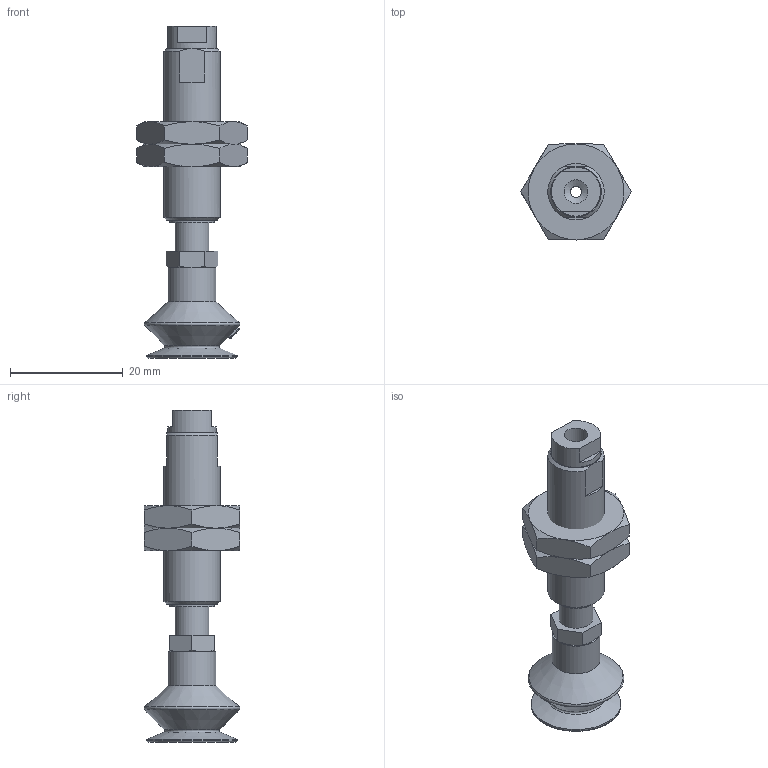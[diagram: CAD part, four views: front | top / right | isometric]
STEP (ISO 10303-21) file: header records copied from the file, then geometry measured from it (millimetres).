
FILE_DESCRIPTION(('STEP AP203'),'1');
FILE_NAME('-LB.stp','2025-04-02T02:29:52',(' '),(' '),'Spatial InterOp 3D',' ',' ');
FILE_SCHEMA(('CONFIG_CONTROL_DESIGN'));
Length unit declared in the file: millimetre
Products named in the file (10): BNABPBTH-15A-5-※-LB; __; BODY; NUT; TN-PS-10-M5; Setting screws-TN-PS-10-M5; BPBG-15A-※; __27; BPBG-15A
Assembly tree (9 placements, depth 3):
  BNABPBTH-15A-5-※-LB
    __
    BODY
    NUT
    NUT
    TN-PS-10-M5
      Setting screws-TN-PS-10-M5
    BPBG-15A-※
      __27
      BPBG-15A
Bounding box: 19.63 x 17 x 59 mm (x, y, z)
Volume: 5634.4 mm3; surface area: 4772.2 mm2
Topology: 7 solids, 7 shells, 141 faces, 303 edges, 185 vertices
Faces by surface type: plane 59, cone 45, cylinder 19, torus 10, bspline 8
Full cylindrical faces by diameter (mm): 2 x2, 3.9 x1, 4 x3, 4.2 x2, 5 x1, 6 x3, 8 x1, 8.5 x1, 8.7 x1, 9 x2, 10 x1, 16 x1
Entity records: 5231 total; most frequent: CARTESIAN_POINT 1991, DIRECTION 563, ORIENTED_EDGE 504, EDGE_CURVE 252, AXIS2_PLACEMENT_3D 247, EDGE_LOOP 201, VERTEX_POINT 173, FACE_OUTER_BOUND 170
